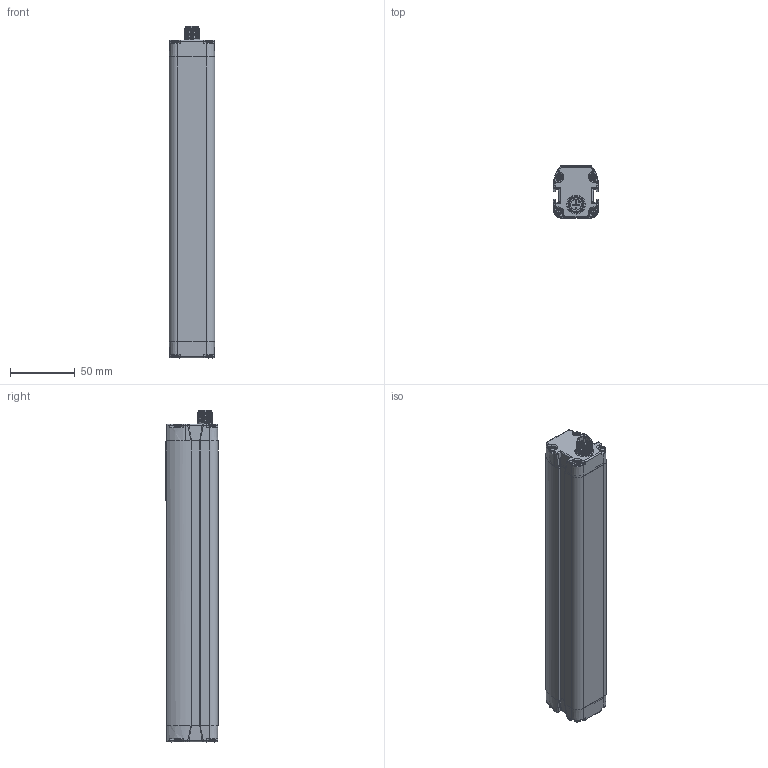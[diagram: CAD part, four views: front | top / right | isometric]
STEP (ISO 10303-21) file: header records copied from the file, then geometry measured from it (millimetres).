
FILE_DESCRIPTION(/* description */ (''),/* implementation_level */ '2;1');
FILE_NAME(/* name */ 'DSD-0973 DS2-05-07-015-JV _TX_STP.stp',/* time_stamp */ '2019-10-07T11:58:50+02:00',/* author */ (''),/* organization */ (''),/* preprocessor_version */ 'ST-DEVELOPER v16.7',/* originating_system */ 'SIEMENS PLM Software NX 12.0',/* authorisation */ '');
FILE_SCHEMA (('AUTOMOTIVE_DESIGN { 1 0 10303 214 3 1 1 1 }'));
Length unit declared in the file: millimetre
Products named in the file (1): fgut2A3C7F9Azsya
Bounding box: 35 x 40.1 x 256 mm (x, y, z)
Volume: 285442.6 mm3; surface area: 63339.2 mm2
Topology: 1 solids, 3 shells, 1269 faces, 3234 edges, 1955 vertices
Faces by surface type: plane 468, cylinder 445, bspline 168, cone 108, sphere 56, torus 24
Full cylindrical faces by diameter (mm): 1 x4, 2 x2, 2.4 x4, 2.6 x8, 3 x1, 3.7 x8, 3.8 x2, 4.2 x1, 5 x8, 6 x1, 6.8 x1, 8.3 x1, 10.4 x1, 10.55 x1, 12 x11, 14 x1, 14.5 x1
Entity records: 49487 total; most frequent: CARTESIAN_POINT 14127, ORIENTED_EDGE 6186, DIRECTION 5414, EDGE_CURVE 3093, AXIS2_PLACEMENT_3D 2108, VERTEX_POINT 1941, EDGE_LOOP 1378, ADVANCED_FACE 1261
